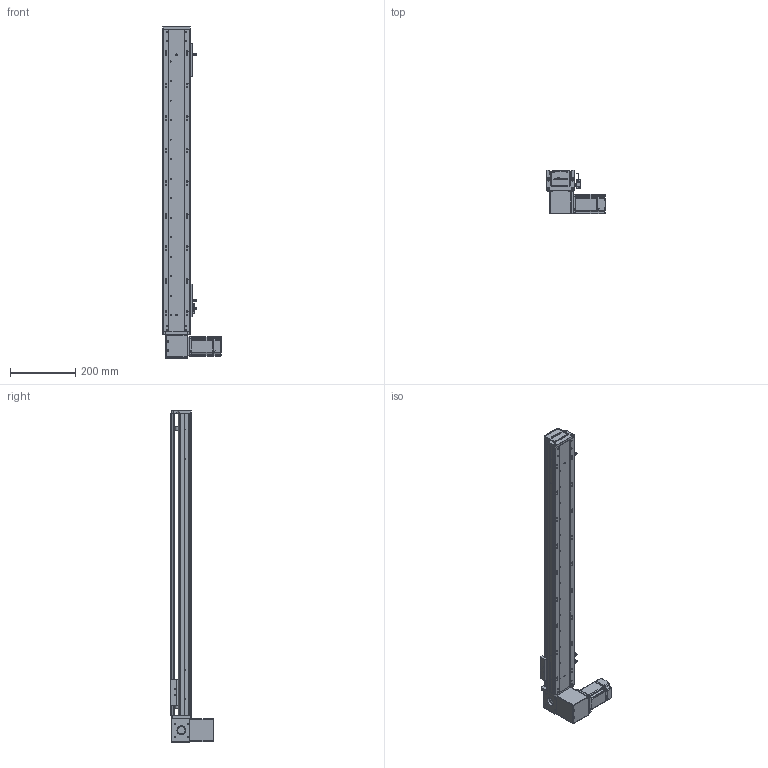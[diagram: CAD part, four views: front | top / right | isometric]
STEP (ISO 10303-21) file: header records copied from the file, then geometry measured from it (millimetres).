
FILE_DESCRIPTION (( 'STEP AP203' ), '1' );
FILE_NAME ('RY80-T-300-DR.SLDASM_750.step', '2021-03-01T01:49:45', ( '盈信电脑' ), ( '东莞市道滘镇水果街19号' ), 'SwSTEP 2.0', 'SolidWorks 2012', '' );
FILE_SCHEMA (( 'CONFIG_CONTROL_DESIGN' ));
Length unit declared in the file: millimetre
Products named in the file (18): RY80-T-300-DR.SLDASM_750; RY80-T-M4蹟翐3; 1; RY80-T肮祭謫狟殏俋欶; RY80-T萇儂假蚾啣; RY80-T-上下折同步轮盖板; RY80-T翋肮祭謫裔啣; RY80-T肮祭湍揤輸2; RY80-T肮祭湍揤輸1; 滅袉蝶18-10; RY80俋离覜茼え; 覜茼ん672; RY80-T-翋肮祭謫釱; 672嫖萇羲壽假蚾釱; RY80-T-300-DR倰第奻裔啣_750; RY80-T綴裔啣; RY80-T肮祭謫臏賑輸; RY80-T-300-DR倰第菁釱_750
Assembly tree (21 placements, depth 2):
  RY80-T-300-DR.SLDASM_750
    RY80-T-300-DR倰第菁釱_750
    RY80-T肮祭謫臏賑輸
    RY80-T-300-DR倰第奻裔啣_750
    RY80-T綴裔啣
    672嫖萇羲壽假蚾釱  x2
    覜茼ん672  x3
    RY80俋离覜茼え
    RY80-T-翋肮祭謫釱
    RY80-T肮祭湍揤輸1
    RY80-T肮祭湍揤輸2
    滅袉蝶18-10  x2
    RY80-T翋肮祭謫裔啣
    RY80-T-上下折同步轮盖板
    RY80-T肮祭謫狟殏俋欶
    RY80-T萇儂假蚾啣
    1
    RY80-T-M4蹟翐3
Bounding box: 180 x 134.5 x 1020 mm (x, y, z)
Volume: 1837205.3 mm3; surface area: 759816.5 mm2
Topology: 21 solids, 21 shells, 2484 faces, 6890 edges, 4474 vertices
Faces by surface type: plane 1323, cylinder 962, cone 143, bspline 56
Entity records: 80022 total; most frequent: CARTESIAN_POINT 20044, ORIENTED_EDGE 12424, DIRECTION 11542, EDGE_CURVE 6212, VERTEX_POINT 4078, AXIS2_PLACEMENT_3D 3884, LINE 3774, VECTOR 3774
